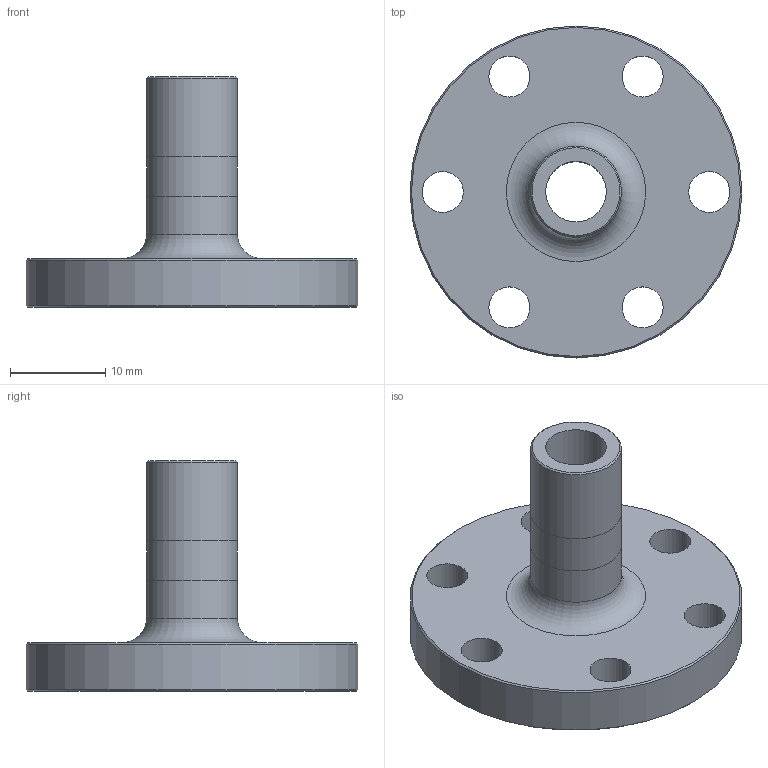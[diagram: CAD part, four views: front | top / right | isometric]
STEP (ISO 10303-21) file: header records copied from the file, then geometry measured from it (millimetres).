
FILE_DESCRIPTION(/* description */ (''),/* implementation_level */ '2;1');
FILE_NAME(/* name */ 'Check Valve Lower Body.step',/* time_stamp */ '2026-05-22T17:14:02-04:00',/* author */ (''),/* organization */ (''),/* preprocessor_version */ 'ST-DEVELOPER v20.1',/* originating_system */ 'Autodesk Translation Framework v15.8.0.0',/* authorisation */ '');
FILE_SCHEMA (('AUTOMOTIVE_DESIGN { 1 0 10303 214 3 1 1 }'));
Length unit declared in the file: inch
Products named in the file (1): Check Valve Lower Body
Bounding box: 34.8 x 34.8 x 24.13 mm (x, y, z)
Volume: 4564.5 mm3; surface area: 3865.4 mm2
Topology: 1 solids, 1 shells, 28 faces, 57 edges, 37 vertices
Faces by surface type: cylinder 16, plane 8, cone 3, torus 1
Full cylindrical faces by diameter (mm): 4.305 x6, 6.35 x1, 7.645 x1, 9.525 x3, 12.776 x1, 13.97 x1, 15.596 x1, 20.726 x1, 34.798 x1
Entity records: 825 total; most frequent: DIRECTION 153, CARTESIAN_POINT 123, ORIENTED_EDGE 114, AXIS2_PLACEMENT_3D 67, EDGE_CURVE 57, EDGE_LOOP 48, CIRCLE 38, VERTEX_POINT 37
